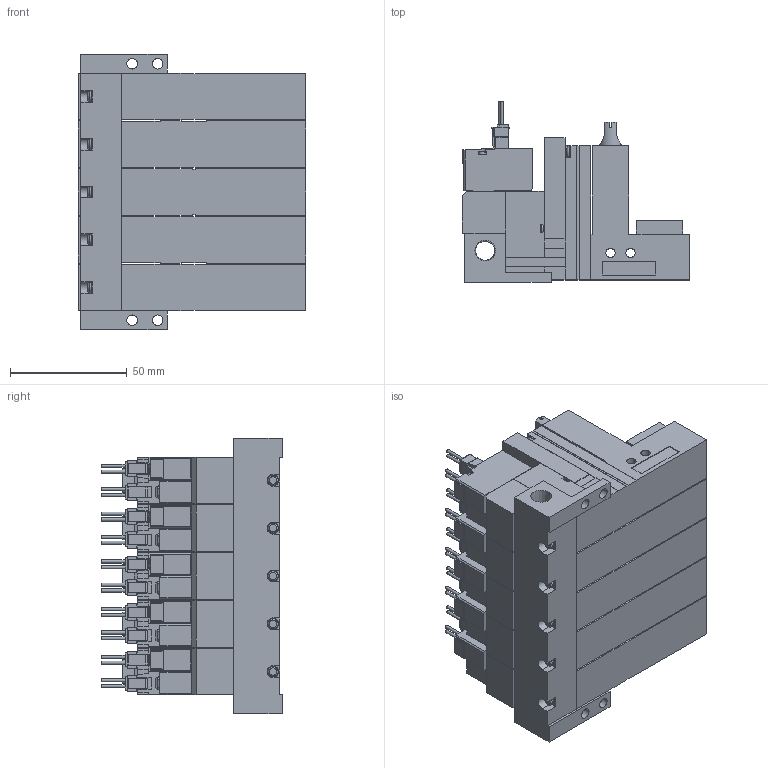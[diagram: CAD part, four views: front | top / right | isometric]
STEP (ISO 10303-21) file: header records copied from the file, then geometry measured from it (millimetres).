
FILE_DESCRIPTION(('STEP AP203'),'1');
FILE_NAME('ZLC5ALR505.stp','2025-02-19T00:37:48',(' '),(' '),'Spatial InterOp 3D',' ',' ');
FILE_SCHEMA(('CONFIG_CONTROL_DESIGN'));
Length unit declared in the file: millimetre
Products named in the file (5): BMC22M※※※※ZLC5ALR505; Solenoid valve A; Pressure sensor ZLC; Unit LC; Base MR50R
Assembly tree (16 placements, depth 2):
  BMC22M※※※※ZLC5ALR505
    Solenoid valve A  x5
    Pressure sensor ZLC  x5
    Unit LC  x5
    Base MR50R
Bounding box: 97.6 x 77.45 x 118 mm (x, y, z)
Volume: 450815.2 mm3; surface area: 119798 mm2
Topology: 16 solids, 16 shells, 1931 faces, 5239 edges, 3435 vertices
Faces by surface type: plane 1664, cylinder 205, cone 37, torus 25
Full cylindrical faces by diameter (mm): 1.4 x20, 2.5 x5, 3 x20, 3.5 x20, 3.6 x5, 4 x10, 4.134 x5, 4.5 x4, 5.2 x5, 6 x5, 6.6 x5, 8.279 x1
Entity records: 14574 total; most frequent: CARTESIAN_POINT 2803, DIRECTION 2303, ORIENTED_EDGE 2298, EDGE_CURVE 1149, LINE 949, VECTOR 949, VERTEX_POINT 796, AXIS2_PLACEMENT_3D 677
